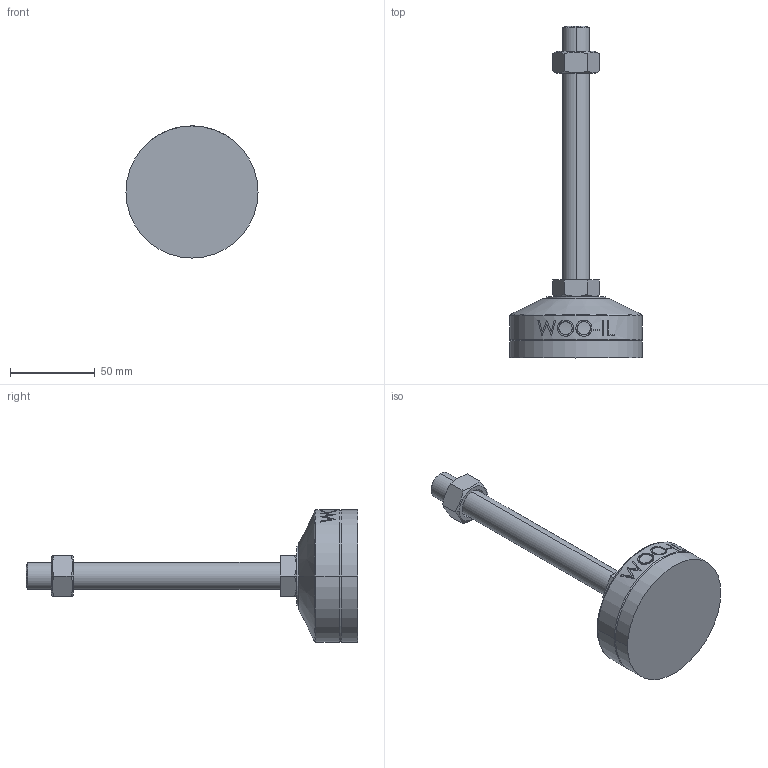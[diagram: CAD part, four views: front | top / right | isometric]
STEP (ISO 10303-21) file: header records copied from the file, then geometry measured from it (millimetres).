
FILE_DESCRIPTION (( 'STEP AP214' ), '1' );
FILE_NAME ('MFZR78-M16-150.step', '2021-03-29T06:57:40', ( '' ), ( '' ), 'SwSTEP 2.0', 'SolidWorks 2019', '' );
FILE_SCHEMA (( 'AUTOMOTIVE_DESIGN' ));
Length unit declared in the file: millimetre
Products named in the file (2): MFZR78-M16-150
Bounding box: 78 x 196 x 78 mm (x, y, z)
Volume: 188021.6 mm3; surface area: 37251.3 mm2
Topology: 4 solids, 4 shells, 103 faces, 235 edges, 150 vertices
Faces by surface type: plane 49, cylinder 18, bspline 16, cone 14, torus 6
Entity records: 4499 total; most frequent: CARTESIAN_POINT 2226, ORIENTED_EDGE 470, DIRECTION 417, EDGE_CURVE 235, AXIS2_PLACEMENT_3D 159, VERTEX_POINT 150, EDGE_LOOP 115, ADVANCED_FACE 103
